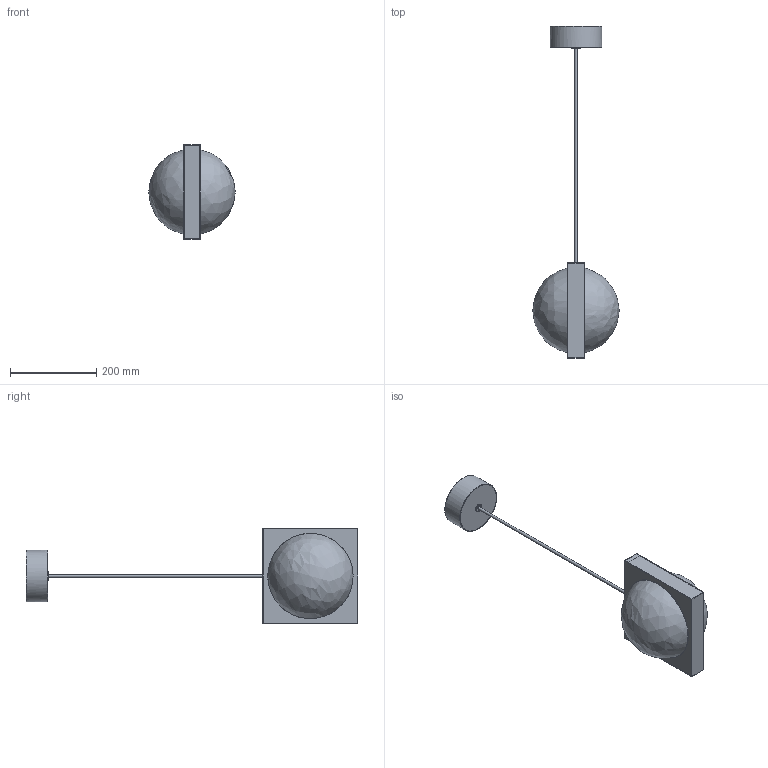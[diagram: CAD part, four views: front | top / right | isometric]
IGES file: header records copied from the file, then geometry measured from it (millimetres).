
Global section: file name: SOLSTICE PENDANT; native system: Autodesk Inventor 2023; preprocessor: unknown; author: Peter Larkam; date: 20240715.153259; units: millimetre
Bounding box: 200 x 769 x 220 mm (x, y, z)
Volume: 407280.9 mm3; surface area: 478899.2 mm2
Topology: 9 solids, 9 shells, 184 faces, 480 edges, 322 vertices
Faces by surface type: bspline 184
